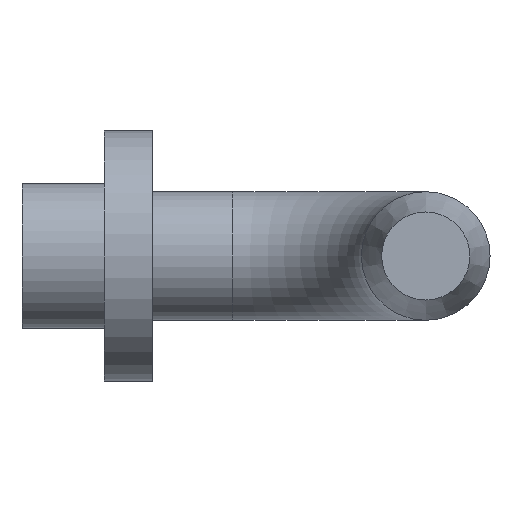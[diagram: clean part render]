
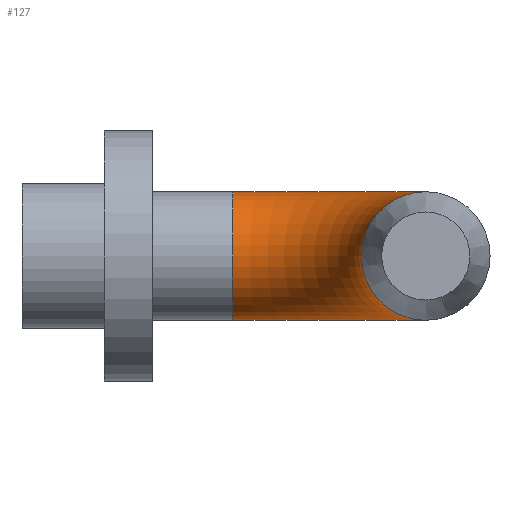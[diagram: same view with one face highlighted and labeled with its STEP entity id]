
A CAD part, front view. The second image highlights one B-rep face of the part: STEP entity #127.
In plain terms, the highlighted toroidal (fillet/blend) face has major radius 3.048 mm and minor radius 1.015 mm.
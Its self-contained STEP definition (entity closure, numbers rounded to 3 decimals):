
#13=TOROIDAL_SURFACE($,#145,3.048,1.015);
#25=FACE_BOUND($,#51,.T.);
#38=FACE_OUTER_BOUND($,#50,.T.);
#50=EDGE_LOOP($,(#105));
#51=EDGE_LOOP($,(#106));
#69=CIRCLE($,#143,1.015);
#70=CIRCLE($,#146,1.015);
#80=VERTEX_POINT($,#217);
#81=VERTEX_POINT($,#221);
#91=EDGE_CURVE($,#80,#80,#69,.T.);
#92=EDGE_CURVE($,#81,#81,#70,.T.);
#105=ORIENTED_EDGE($,*,*,#91,.T.);
#106=ORIENTED_EDGE($,*,*,#92,.F.);
#127=ADVANCED_FACE($,(#38,#25),#13,.T.);
#143=AXIS2_PLACEMENT_3D($,#218,#172,#173);
#145=AXIS2_PLACEMENT_3D($,#220,#176,#177);
#146=AXIS2_PLACEMENT_3D($,#222,#178,#179);
#172=DIRECTION('center_axis',(0.,1.,0.));
#173=DIRECTION('ref_axis',(0.,0.,1.));
#176=DIRECTION('center_axis',(0.,0.,-1.));
#177=DIRECTION('ref_axis',(-1.,0.,0.));
#178=DIRECTION('center_axis',(-1.,0.,0.));
#179=DIRECTION('ref_axis',(0.,0.,1.));
#217=CARTESIAN_POINT('',(4.318,-3.048,-1.015));
#218=CARTESIAN_POINT('Origin',(4.318,-3.048,0.));
#220=CARTESIAN_POINT('Origin',(1.27,-3.048,0.));
#221=CARTESIAN_POINT('',(1.27,0.,-1.015));
#222=CARTESIAN_POINT('Origin',(1.27,0.,0.));
